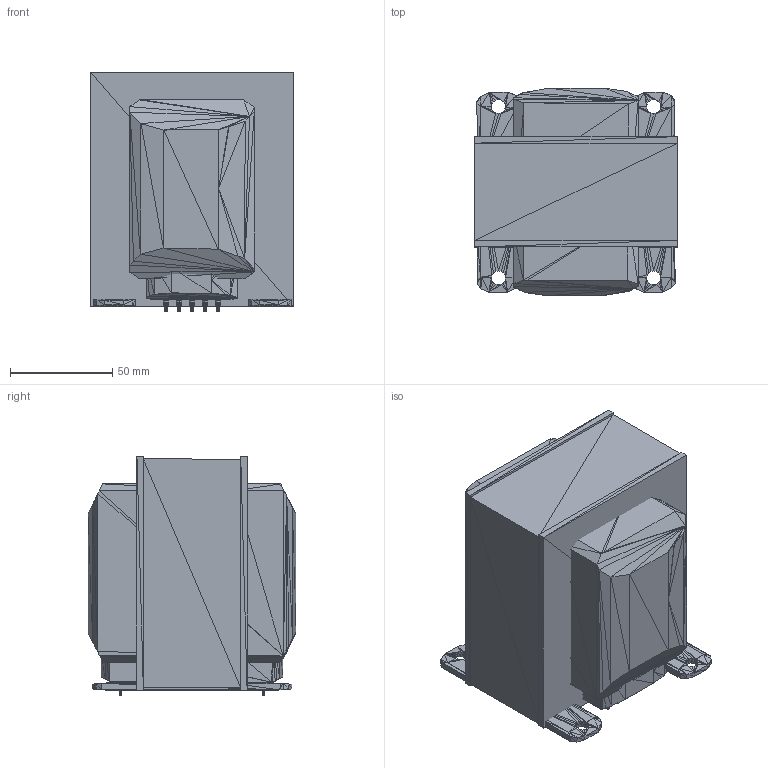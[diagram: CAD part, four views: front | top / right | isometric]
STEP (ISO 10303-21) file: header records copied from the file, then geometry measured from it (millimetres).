
FILE_DESCRIPTION(('HOOPS Exchange Step'),'2;1');
FILE_NAME('***.stp');
FILE_SCHEMA( ('AP242_MANAGED_MODEL_BASED_3D_ENGINEERING_MIM_LF {1 0 10303 442 1 1 4 }') );
Length unit declared in the file: inch
Products named in the file (24): XFRMSPKR3_2; XFRMSPKR3_3; XFRMSPKR3_4; XFRMSPKR3_5; XFRMSPKR3_6; XFRMSPKR3_7; XFRMSPKR3_8; XFRMSPKR3_9; XFRMSPKR3_10; XFRMSPKR3_11; XFRMSPKR3_12; XFRMSPKR3_13; XFRMSPKR3_14; XFRMSPKR3_15; XFRMSPKR3_16; XFRMSPKR3_17; XFRMSPKR3_18; XFRMSPKR3_19; XFRMSPKR3_20; XFRMSPKR3_21; XFRMSPKR3_22; XFRMSPKR3_23; XFRMSPKR3_24; XFRMSPKR3
Assembly tree (23 placements, depth 2):
  XFRMSPKR3
    XFRMSPKR3_2
    XFRMSPKR3_3
    XFRMSPKR3_4
    XFRMSPKR3_5
    XFRMSPKR3_6
    XFRMSPKR3_7
    XFRMSPKR3_8
    XFRMSPKR3_9
    XFRMSPKR3_10
    XFRMSPKR3_11
    XFRMSPKR3_12
    XFRMSPKR3_13
    XFRMSPKR3_14
    XFRMSPKR3_15
    XFRMSPKR3_16
    XFRMSPKR3_17
    XFRMSPKR3_18
    XFRMSPKR3_19
    XFRMSPKR3_20
    XFRMSPKR3_21
    XFRMSPKR3_22
    XFRMSPKR3_23
    XFRMSPKR3_24
Bounding box: 99.09 x 101.62 x 116.85 mm (x, y, z)
Surface area: 149829.7 mm2
Topology: 23 solids, 23 shells, 2060 faces, 3090 edges, 1068 vertices
Faces by surface type: plane 2060
Entity records: 41303 total; most frequent: DIRECTION 7306, CARTESIAN_POINT 6266, ORIENTED_EDGE 6180, VECTOR 3090, LINE 3090, EDGE_CURVE 3090, AXIS2_PLACEMENT_3D 2108, PLANE 2060
